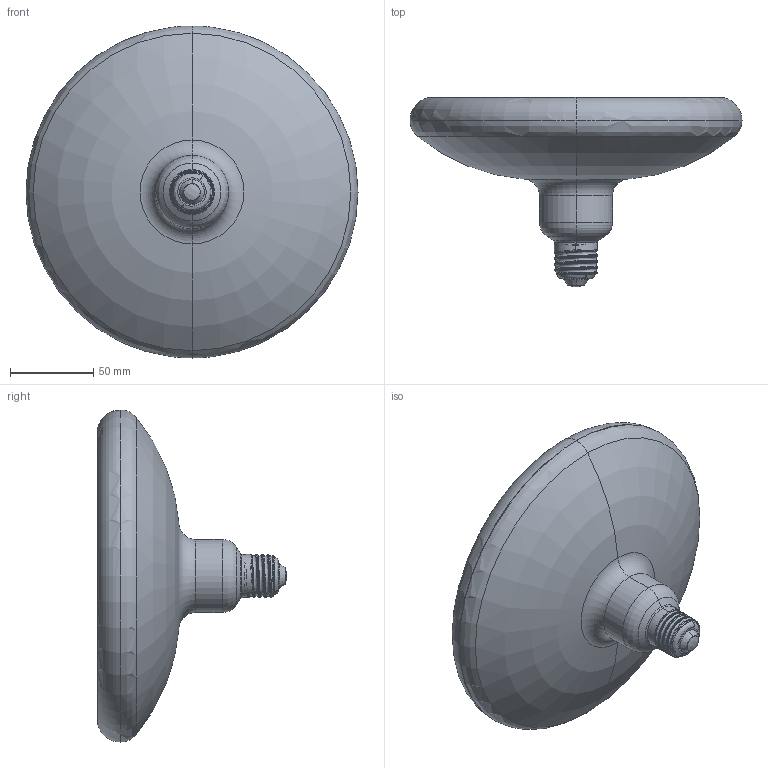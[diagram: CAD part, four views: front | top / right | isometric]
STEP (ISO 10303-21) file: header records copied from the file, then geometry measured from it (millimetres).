
FILE_DESCRIPTION (( 'STEP AP214' ), '1' );
FILE_NAME ('M200AM.STEP', '2023-07-20T13:32:25', ( '' ), ( '' ), 'SwSTEP 2.0', 'SolidWorks 2020', '' );
FILE_SCHEMA (( 'AUTOMOTIVE_DESIGN' ));
Length unit declared in the file: millimetre
Products named in the file (4): M200 LED; M200AM; M200; E27DT 20230720
Assembly tree (3 placements, depth 2):
  M200AM
    M200
    M200 LED
    E27DT 20230720
Bounding box: 200 x 113.79 x 200 mm (x, y, z)
Volume: 121149.2 mm3; surface area: 239462.1 mm2
Topology: 4 solids, 4 shells, 284 faces, 690 edges, 410 vertices
Faces by surface type: torus 102, bspline 63, cylinder 62, sphere 20, plane 19, cone 18
Entity records: 43436 total; most frequent: CARTESIAN_POINT 36829, ORIENTED_EDGE 1308, DIRECTION 1210, EDGE_CURVE 654, AXIS2_PLACEMENT_3D 558, VERTEX_POINT 394, CIRCLE 347, EDGE_LOOP 272
